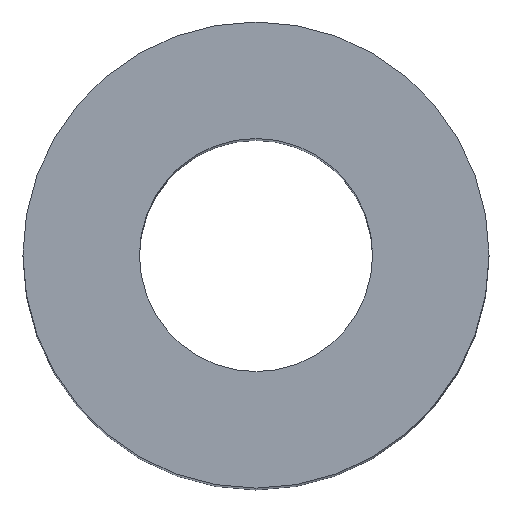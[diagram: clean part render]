
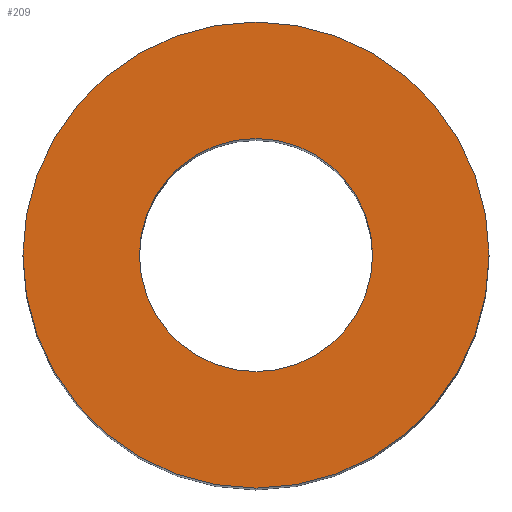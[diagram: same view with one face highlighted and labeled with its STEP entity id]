
A CAD part, top view. The second image highlights one B-rep face of the part: STEP entity #209.
In plain terms, the highlighted planar face has unit normal (0, 0, 1).
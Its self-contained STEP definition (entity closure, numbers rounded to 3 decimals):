
#1 = AXIS2_PLACEMENT_3D ( 'NONE', #9, #48, #113 ) ;
#2 = CIRCLE ( 'NONE', #192, 25. ) ;
#9 = CARTESIAN_POINT ( 'NONE',  ( 0., 0., 115. ) ) ;
#17 = DIRECTION ( 'NONE',  ( 1., 0., 0. ) ) ;
#23 = EDGE_CURVE ( 'NONE', #66, #73, #110, .T. ) ;
#24 = CIRCLE ( 'NONE', #156, 25. ) ;
#33 = FACE_OUTER_BOUND ( 'NONE', #100, .T. ) ;
#36 = EDGE_CURVE ( 'NONE', #73, #66, #123, .T. ) ;
#46 = CARTESIAN_POINT ( 'NONE',  ( 0., 0., 115. ) ) ;
#48 = DIRECTION ( 'NONE',  ( 0., 0., 1. ) ) ;
#61 = CARTESIAN_POINT ( 'NONE',  ( 0., 0., 115. ) ) ;
#63 = DIRECTION ( 'NONE',  ( 0., 0., 1. ) ) ;
#66 = VERTEX_POINT ( 'NONE', #132 ) ;
#68 = ORIENTED_EDGE ( 'NONE', *, *, #36, .F. ) ;
#70 = AXIS2_PLACEMENT_3D ( 'NONE', #61, #146, #160 ) ;
#73 = VERTEX_POINT ( 'NONE', #170 ) ;
#76 = DIRECTION ( 'NONE',  ( 1., 0., 0. ) ) ;
#77 = VERTEX_POINT ( 'NONE', #139 ) ;
#83 = AXIS2_PLACEMENT_3D ( 'NONE', #142, #153, #76 ) ;
#88 = DIRECTION ( 'NONE',  ( 1., 0., 0. ) ) ;
#100 = EDGE_LOOP ( 'NONE', ( #116, #114 ) ) ;
#104 = VERTEX_POINT ( 'NONE', #105 ) ;
#105 = CARTESIAN_POINT ( 'NONE',  ( -25., 0., 115. ) ) ;
#110 = CIRCLE ( 'NONE', #1, 12.5 ) ;
#111 = ORIENTED_EDGE ( 'NONE', *, *, #23, .F. ) ;
#113 = DIRECTION ( 'NONE',  ( 1., 0., 0. ) ) ;
#114 = ORIENTED_EDGE ( 'NONE', *, *, #169, .T. ) ;
#116 = ORIENTED_EDGE ( 'NONE', *, *, #164, .T. ) ;
#122 = FACE_BOUND ( 'NONE', #126, .T. ) ;
#123 = CIRCLE ( 'NONE', #70, 12.5 ) ;
#126 = EDGE_LOOP ( 'NONE', ( #68, #111 ) ) ;
#132 = CARTESIAN_POINT ( 'NONE',  ( 12.5, 0., 115. ) ) ;
#139 = CARTESIAN_POINT ( 'NONE',  ( 25., 0., 115. ) ) ;
#142 = CARTESIAN_POINT ( 'NONE',  ( 0., 0., 115. ) ) ;
#146 = DIRECTION ( 'NONE',  ( 0., 0., 1. ) ) ;
#153 = DIRECTION ( 'NONE',  ( 0., 0., 1. ) ) ;
#156 = AXIS2_PLACEMENT_3D ( 'NONE', #46, #63, #88 ) ;
#160 = DIRECTION ( 'NONE',  ( 1., 0., 0. ) ) ;
#164 = EDGE_CURVE ( 'NONE', #104, #77, #2, .T. ) ;
#169 = EDGE_CURVE ( 'NONE', #77, #104, #24, .T. ) ;
#170 = CARTESIAN_POINT ( 'NONE',  ( -12.5, 0., 115. ) ) ;
#192 = AXIS2_PLACEMENT_3D ( 'NONE', #204, #207, #17 ) ;
#195 = PLANE ( 'NONE',  #83 ) ;
#204 = CARTESIAN_POINT ( 'NONE',  ( 0., 0., 115. ) ) ;
#207 = DIRECTION ( 'NONE',  ( 0., 0., 1. ) ) ;
#209 = ADVANCED_FACE ( 'NONE', ( #33, #122 ), #195, .T. ) ;
